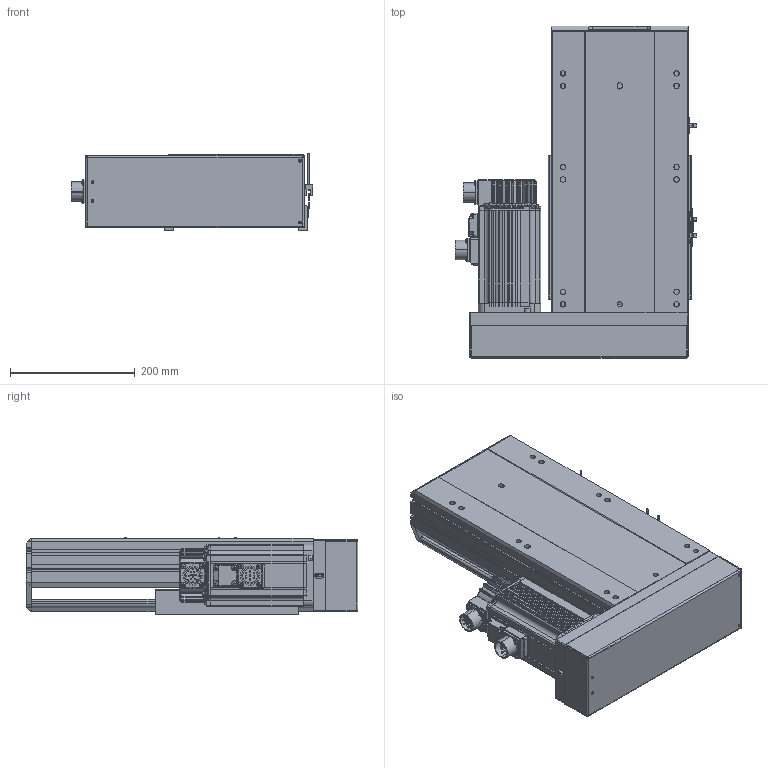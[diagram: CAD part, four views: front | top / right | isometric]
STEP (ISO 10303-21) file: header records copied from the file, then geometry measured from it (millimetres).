
FILE_DESCRIPTION (( 'STEP AP203' ), '1' );
FILE_NAME ('BTH22-L05-150-BL-PCD115-M6-95.STEP', '2022-05-07T01:18:54', ( 'CXY' ), ( 'BT' ), 'SwSTEP 2.0', 'SolidWorks 2016', '' );
FILE_SCHEMA (( 'CONFIG_CONTROL_DESIGN' ));
Length unit declared in the file: millimetre
Products named in the file (7): BTH22-BL-01; BTH22-BL-04; BTH22-BL-菁釱; BTH22-L05-150-BL-PCD115-M6-95; PCD115; BTH22-BL-HZ; BTH22-BL-06-H100
Assembly tree (8 placements, depth 2):
  BTH22-L05-150-BL-PCD115-M6-95
    BTH22-BL-菁釱
    BTH22-BL-01
    BTH22-BL-04  x3
    BTH22-BL-HZ
    PCD115
    BTH22-BL-06-H100
Bounding box: 387.7 x 532 x 122.7 mm (x, y, z)
Volume: 8895766.1 mm3; surface area: 1422423.7 mm2
Topology: 50 solids, 50 shells, 2985 faces, 7612 edges, 4734 vertices
Faces by surface type: cylinder 1297, plane 1196, bspline 387, cone 105
Entity records: 94890 total; most frequent: CARTESIAN_POINT 26751, ORIENTED_EDGE 14244, DIRECTION 13977, EDGE_CURVE 7122, AXIS2_PLACEMENT_3D 5105, VERTEX_POINT 4502, VECTOR 3767, LINE 3767
